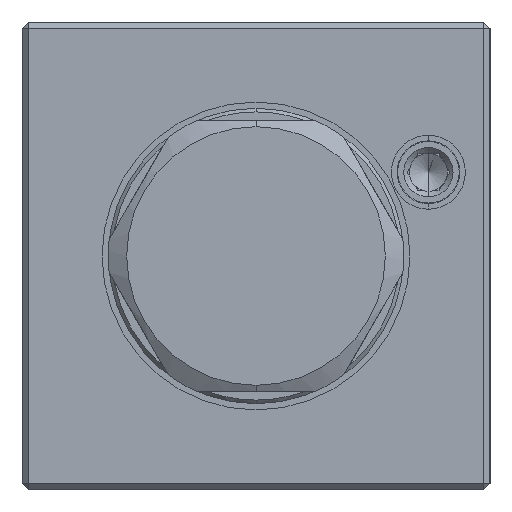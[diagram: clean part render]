
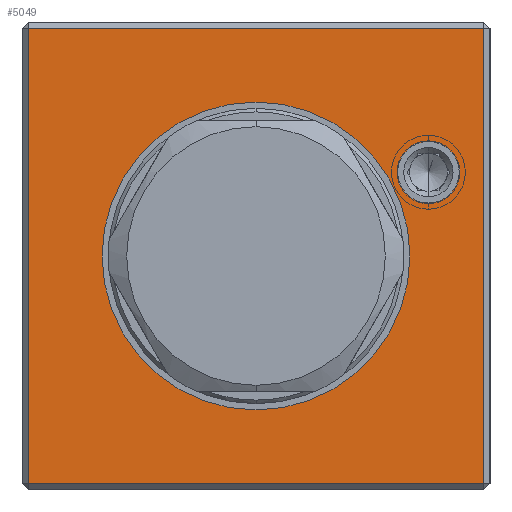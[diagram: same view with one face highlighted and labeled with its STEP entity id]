
A CAD part, left-side view. The second image highlights one B-rep face of the part: STEP entity #5049.
In plain terms, the highlighted planar face has unit normal (-1, 0, 0).
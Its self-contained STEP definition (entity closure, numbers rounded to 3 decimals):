
#1311 = ORIENTED_EDGE ( 'NONE', *, *, #1340, .T. ) ;
#1314 = ORIENTED_EDGE ( 'NONE', *, *, #1341, .T. ) ;
#1315 = ORIENTED_EDGE ( 'NONE', *, *, #1339, .T. ) ;
#1316 = ORIENTED_EDGE ( 'NONE', *, *, #1342, .T. ) ;
#1317 = ORIENTED_EDGE ( 'NONE', *, *, #1344, .F. ) ;
#1318 = ORIENTED_EDGE ( 'NONE', *, *, #1343, .F. ) ;
#1320 = ORIENTED_EDGE ( 'NONE', *, *, #7825, .F. ) ;
#1321 = ORIENTED_EDGE ( 'NONE', *, *, #7950, .F. ) ;
#1339 = EDGE_CURVE ( 'NONE', #9224, #9226, #11787, .T. ) ;
#1340 = EDGE_CURVE ( 'NONE', #9223, #9224, #11790, .T. ) ;
#1341 = EDGE_CURVE ( 'NONE', #9226, #9227, #11865, .T. ) ;
#1342 = EDGE_CURVE ( 'NONE', #9227, #9223, #11868, .T. ) ;
#1343 = EDGE_CURVE ( 'NONE', #8967, #8966, #10541, .T. ) ;
#1344 = EDGE_CURVE ( 'NONE', #9119, #9117, #10542, .T. ) ;
#5049 = ADVANCED_FACE ( 'NONE', ( #19013, #19011, #19018 ), #21214, .F. ) ;
#7825 = EDGE_CURVE ( 'NONE', #8966, #8967, #11307, .T. ) ;
#7950 = EDGE_CURVE ( 'NONE', #9117, #9119, #28418, .T. ) ;
#8966 = VERTEX_POINT ( 'NONE', #28728 ) ;
#8967 = VERTEX_POINT ( 'NONE', #28729 ) ;
#9117 = VERTEX_POINT ( 'NONE', #28842 ) ;
#9119 = VERTEX_POINT ( 'NONE', #28843 ) ;
#9223 = VERTEX_POINT ( 'NONE', #28920 ) ;
#9224 = VERTEX_POINT ( 'NONE', #28921 ) ;
#9226 = VERTEX_POINT ( 'NONE', #28922 ) ;
#9227 = VERTEX_POINT ( 'NONE', #28923 ) ;
#10437 = EDGE_LOOP ( 'NONE', ( #1311, #1315, #1314, #1316 ) ) ;
#10438 = EDGE_LOOP ( 'NONE', ( #1318, #1320 ) ) ;
#10439 = EDGE_LOOP ( 'NONE', ( #1317, #1321 ) ) ;
#10541 = CIRCLE ( 'NONE', #32708, 2.5 ) ;
#10542 = CIRCLE ( 'NONE', #32713, 12.5 ) ;
#11307 = CIRCLE ( 'NONE', #25342, 2.5 ) ;
#11786 = CARTESIAN_POINT ( 'NONE',  ( 0., -14., 6.8 ) ) ;
#11787 = LINE ( 'NONE', #11788, #32709 ) ;
#11788 = CARTESIAN_POINT ( 'NONE',  ( 0., -19., -18.5 ) ) ;
#11789 = DIRECTION ( 'NONE',  ( 0., -1., 0. ) ) ;
#11790 = LINE ( 'NONE', #11863, #32710 ) ;
#11863 = CARTESIAN_POINT ( 'NONE',  ( 0., 18.5, 19. ) ) ;
#11864 = DIRECTION ( 'NONE',  ( 0., 0., -1. ) ) ;
#11865 = LINE ( 'NONE', #11866, #32711 ) ;
#11866 = CARTESIAN_POINT ( 'NONE',  ( 0., -18.5, 19. ) ) ;
#11867 = DIRECTION ( 'NONE',  ( 0., 0., 1. ) ) ;
#11868 = LINE ( 'NONE', #11869, #32712 ) ;
#11869 = CARTESIAN_POINT ( 'NONE',  ( 0., -19., 18.5 ) ) ;
#11870 = DIRECTION ( 'NONE',  ( 0., 1., 0. ) ) ;
#11871 = DIRECTION ( 'NONE',  ( -1., 0., 0. ) ) ;
#11872 = DIRECTION ( 'NONE',  ( 0., 0., 1. ) ) ;
#11873 = CARTESIAN_POINT ( 'NONE',  ( 0., 0., 0. ) ) ;
#11874 = DIRECTION ( 'NONE',  ( -1., 0., 0. ) ) ;
#11875 = DIRECTION ( 'NONE',  ( 0., -1., 0. ) ) ;
#19011 = FACE_BOUND ( 'NONE', #10438, .T. ) ;
#19013 = FACE_OUTER_BOUND ( 'NONE', #10437, .T. ) ;
#19018 = FACE_BOUND ( 'NONE', #10439, .T. ) ;
#19020 = AXIS2_PLACEMENT_3D ( 'NONE', #21215, #21216, #21217 ) ;
#21214 = PLANE ( 'NONE',  #19020 ) ;
#21215 = CARTESIAN_POINT ( 'NONE',  ( 0., -19., 19. ) ) ;
#21216 = DIRECTION ( 'NONE',  ( 1., 0., 0. ) ) ;
#21217 = DIRECTION ( 'NONE',  ( 0., 0., -1. ) ) ;
#25342 = AXIS2_PLACEMENT_3D ( 'NONE', #27123, #27124, #27125 ) ;
#27123 = CARTESIAN_POINT ( 'NONE',  ( 0., -14., 6.8 ) ) ;
#27124 = DIRECTION ( 'NONE',  ( -1., 0., 0. ) ) ;
#27125 = DIRECTION ( 'NONE',  ( 0., 0., 1. ) ) ;
#27510 = AXIS2_PLACEMENT_3D ( 'NONE', #28236, #28237, #28238 ) ;
#28236 = CARTESIAN_POINT ( 'NONE',  ( 0., 0., 0. ) ) ;
#28237 = DIRECTION ( 'NONE',  ( -1., 0., 0. ) ) ;
#28238 = DIRECTION ( 'NONE',  ( 0., -1., 0. ) ) ;
#28418 = CIRCLE ( 'NONE', #27510, 12.5 ) ;
#28728 = CARTESIAN_POINT ( 'NONE',  ( 0., -14., 4.3 ) ) ;
#28729 = CARTESIAN_POINT ( 'NONE',  ( 0., -14., 9.3 ) ) ;
#28842 = CARTESIAN_POINT ( 'NONE',  ( 0., 12.5, 0. ) ) ;
#28843 = CARTESIAN_POINT ( 'NONE',  ( 0., -12.5, 0. ) ) ;
#28920 = CARTESIAN_POINT ( 'NONE',  ( 0., 18.5, 18.5 ) ) ;
#28921 = CARTESIAN_POINT ( 'NONE',  ( 0., 18.5, -18.5 ) ) ;
#28922 = CARTESIAN_POINT ( 'NONE',  ( 0., -18.5, -18.5 ) ) ;
#28923 = CARTESIAN_POINT ( 'NONE',  ( 0., -18.5, 18.5 ) ) ;
#32708 = AXIS2_PLACEMENT_3D ( 'NONE', #11786, #11871, #11872 ) ;
#32709 = VECTOR ( 'NONE', #11789, 1000. ) ;
#32710 = VECTOR ( 'NONE', #11864, 1000. ) ;
#32711 = VECTOR ( 'NONE', #11867, 1000. ) ;
#32712 = VECTOR ( 'NONE', #11870, 1000. ) ;
#32713 = AXIS2_PLACEMENT_3D ( 'NONE', #11873, #11874, #11875 ) ;
